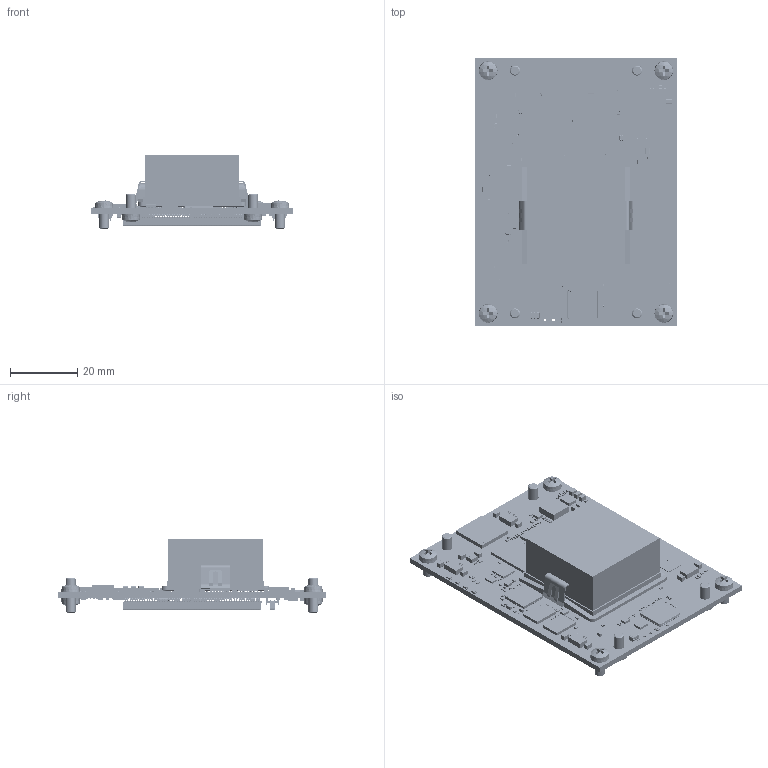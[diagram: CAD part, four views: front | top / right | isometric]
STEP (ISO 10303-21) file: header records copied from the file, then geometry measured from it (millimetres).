
FILE_DESCRIPTION(('Open CASCADE Model'),'2;1');
FILE_NAME('Open CASCADE Shape Model','2026-01-28T08:48:28',('Author'),( 'Open CASCADE'),'Open CASCADE STEP processor 7.5','Open CASCADE 7.5' ,'Unknown');
FILE_SCHEMA(('AUTOMOTIVE_DESIGN { 1 0 10303 214 1 1 1 1 }'));
Length unit declared in the file: millimetre
Products named in the file (600): PCB; Board=projectname; Open CASCADE STEP translator 7.5 2.1.1; R176=projectname; RES_0603-0201; R175=projectname; C239=projectname; User Library-SMD 0201 CAPACITOR; C238=projectname; C221=projectname; C219=projectname; C218=projectname; R174=projectname; R173=projectname; 4990124208; R172=projectname; C217=projectname; User Library-SMD CAPACITOR0402; C214=projectname; C212=projectname; C210=projectname; R171=projectname; 4990124608; U20=projectname; 8677256064; R48=projectname; 4990120848; R47=projectname; D5=projectname; 10160107024; R165=projectname; R164=projectname; C134=projectname; C133=projectname; Y5=projectname; 9843621952; Extruded; Y4=projectname; 9843623072; 9432751264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
Assembly tree (1052 placements, depth 4):
  PCB
    Board=projectname
      Open CASCADE STEP translator 7.5 2.1.1
    R176=projectname
      RES_0603-0201
    R175=projectname
      RES_0603-0201
    C239=projectname
      User Library-SMD 0201 CAPACITOR
    C238=projectname
      User Library-SMD 0201 CAPACITOR
    C221=projectname
      User Library-SMD 0201 CAPACITOR
    C219=projectname
      User Library-SMD 0201 CAPACITOR
    C218=projectname
      User Library-SMD 0201 CAPACITOR
    R174=projectname
      RES_0603-0201
    R173=projectname
      4990124208
    R172=projectname
      RES_0603-0201
    C217=projectname
      User Library-SMD CAPACITOR0402
    C214=projectname
      User Library-SMD 0201 CAPACITOR
    C212=projectname
      User Library-SMD 0201 CAPACITOR
    C210=projectname
      User Library-SMD CAPACITOR0402
    R171=projectname
      4990124608
    U20=projectname
      8677256064
    R48=projectname
      4990120848
    R47=projectname
      4990120848
    D5=projectname
      10160107024
    R165=projectname
      RES_0603-0201
    R164=projectname
      RES_0603-0201
    C134=projectname
      User Library-SMD 0201 CAPACITOR
    C133=projectname
      User Library-SMD 0201 CAPACITOR
    Y5=projectname
      9843621952
        Extruded
    Y4=projectname
      9843623072
        Extruded
      9432751264
        Cylinder
    Y3=projectname
      9432751264
        Cylinder
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Bounding box: 60 x 80 x 21.8 mm (x, y, z)
Volume: 26240.8 mm3; surface area: 31494.3 mm2
Topology: 2517 solids, 2525 shells, 44158 faces, 115139 edges, 70672 vertices
Faces by surface type: plane 27816, cylinder 10694, sphere 5282, bspline 178, torus 136, cone 52
Full cylindrical faces by diameter (mm): 0.4 x3, 0.6 x6, 0.8 x7, 1 x6, 3.2 x8
Entity records: 481104 total; most frequent: CARTESIAN_POINT 82815, ORIENTED_EDGE 62870, DIRECTION 61195, EDGE_CURVE 31435, VERTEX_POINT 22232, LINE 22011, VECTOR 22011, AXIS2_PLACEMENT_3D 19592
